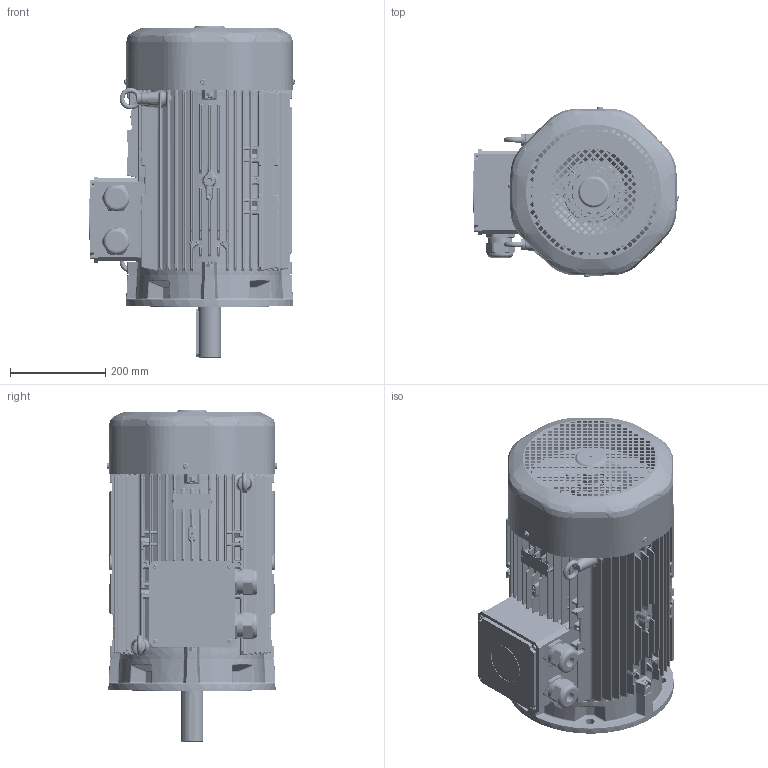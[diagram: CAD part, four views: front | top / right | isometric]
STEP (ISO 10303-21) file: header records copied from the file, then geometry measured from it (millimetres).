
FILE_DESCRIPTION(/* description */ (''),/* implementation_level */ '2;1');
FILE_NAME(/* name */ 'IE3 (QH series) 180_FA.stp',/* time_stamp */ '2017-04-20T17:21:59+03:00',/* author */ (''),/* organization */ (''),/* preprocessor_version */ 'ST-DEVELOPER v15',/* originating_system */ 'SIEMENS PLM Software NX 9.0',/* authorisation */ '');
FILE_SCHEMA (('CONFIG_CONTROL_DESIGN'));
Products named in the file (1): AR-000000806581_001
Bounding box: 430.55 x 357.1 x 696 mm (x, y, z)
Volume: 10991820.6 mm3; surface area: 2966328.6 mm2
Topology: 3 solids, 44 shells, 13268 faces, 33787 edges, 20301 vertices
Faces by surface type: cylinder 4329, plane 3570, bspline 3568, cone 690, sphere 664, torus 447
Full cylindrical faces by diameter (mm): 2.4 x2, 2.89 x2, 3.2 x2, 4 x3, 4.3 x4, 4.918 x8, 5.5 x3, 5.6 x12, 6 x4, 6.5 x4, 7.6 x1, 8 x1, 8.4 x2, 8.5 x2, 9 x4, 9.444 x3, 10 x3, 12 x8, 16 x1, 19 x4, 22 x2, 25 x2, 25.05 x2, 34.2 x1, 48 x1, 48.17 x4, 48.38 x4, 50 x6, 51.2 x2, 55 x2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
Entity records: 476863 total; most frequent: CARTESIAN_POINT 182085, ORIENTED_EDGE 65558, DIRECTION 56711, EDGE_CURVE 32779, AXIS2_PLACEMENT_3D 21926, VERTEX_POINT 20105, EDGE_LOOP 14674, ADVANCED_FACE 13263
